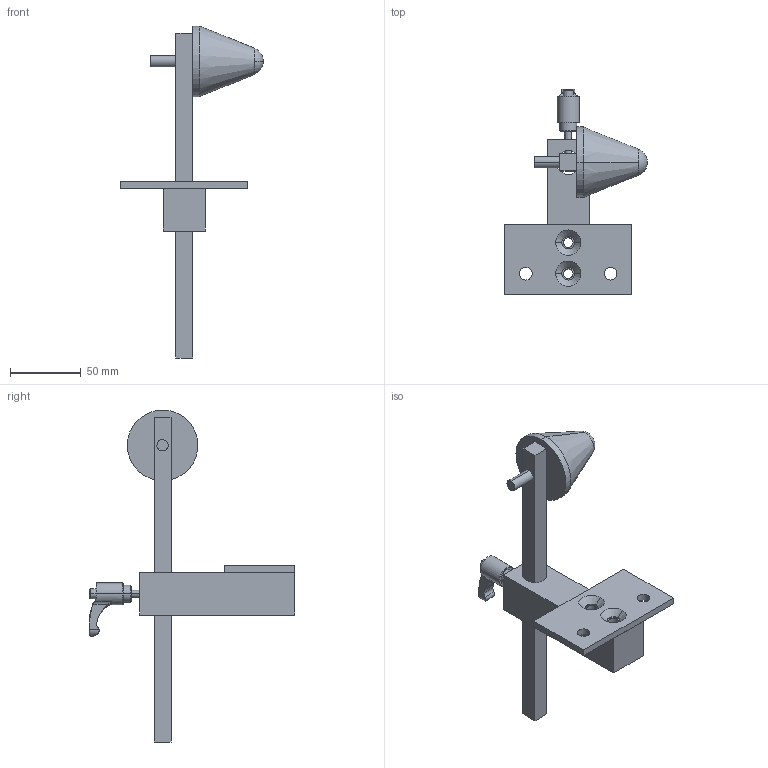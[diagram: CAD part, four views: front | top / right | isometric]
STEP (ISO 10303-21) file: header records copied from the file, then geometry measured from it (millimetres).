
FILE_DESCRIPTION (( 'STEP AP214' ), '1' );
FILE_NAME ('BUTEE CONIQUE.STEP', '2017-04-06T09:06:23', ( '' ), ( '' ), 'SwSTEP 2.0', 'SolidWorks 2016', '' );
FILE_SCHEMA (( 'AUTOMOTIVE_DESIGN' ));
Length unit declared in the file: millimetre
Products named in the file (6): Plaque support; BUTEE CONIQUE; Support horizontal butée; Poignée butée_Default<Brut d''usinage>; Support vertical butée; Butée paulstra Diam 50
Assembly tree (5 placements, depth 2):
  BUTEE CONIQUE
    Support vertical butée
    Plaque support
    Butée paulstra Diam 50
    Support horizontal butée
    Poignée butée_Default<Brut d''usinage>
Bounding box: 101 x 145.73 x 235 mm (x, y, z)
Volume: 199461.2 mm3; surface area: 51389.6 mm2
Topology: 6 solids, 6 shells, 114 faces, 264 edges, 172 vertices
Faces by surface type: cylinder 54, plane 37, torus 11, cone 10, sphere 2
Entity records: 4123 total; most frequent: CARTESIAN_POINT 928, DIRECTION 573, ORIENTED_EDGE 528, EDGE_CURVE 264, AXIS2_PLACEMENT_3D 239, VERTEX_POINT 172, EDGE_LOOP 144, CIRCLE 117
